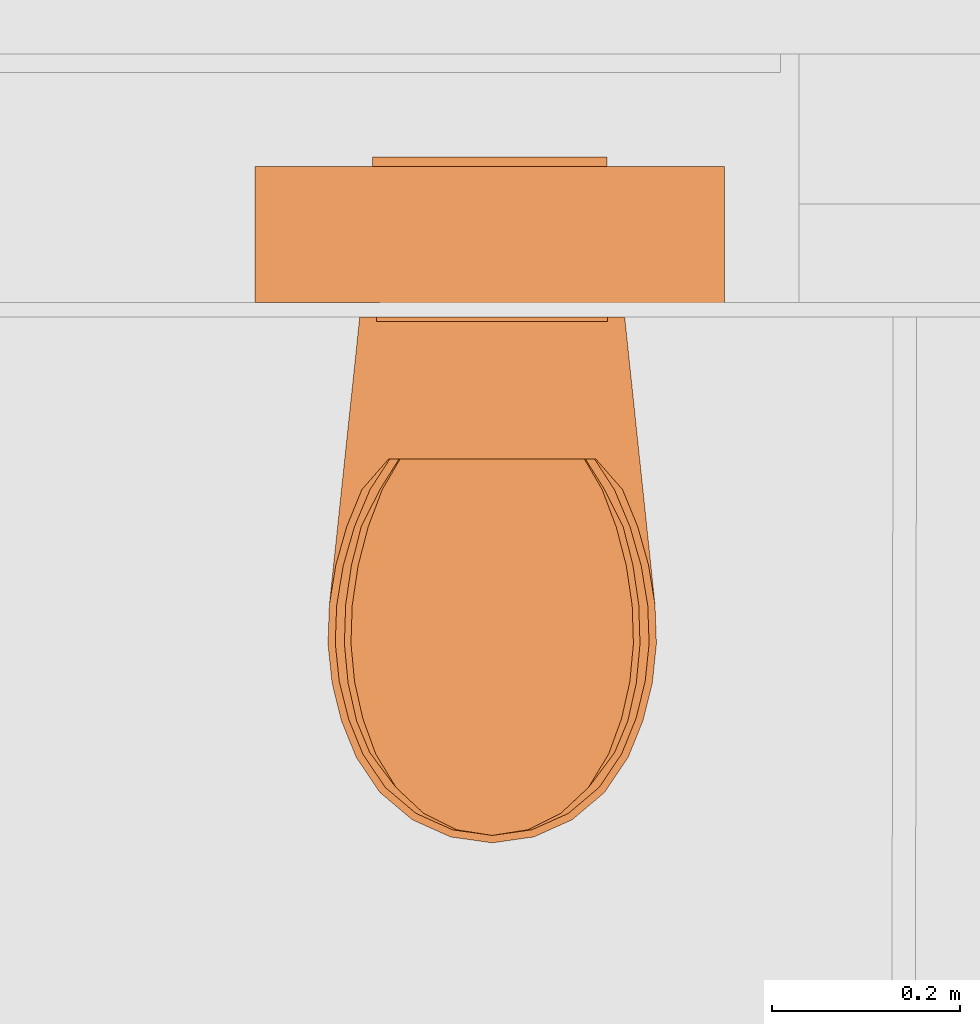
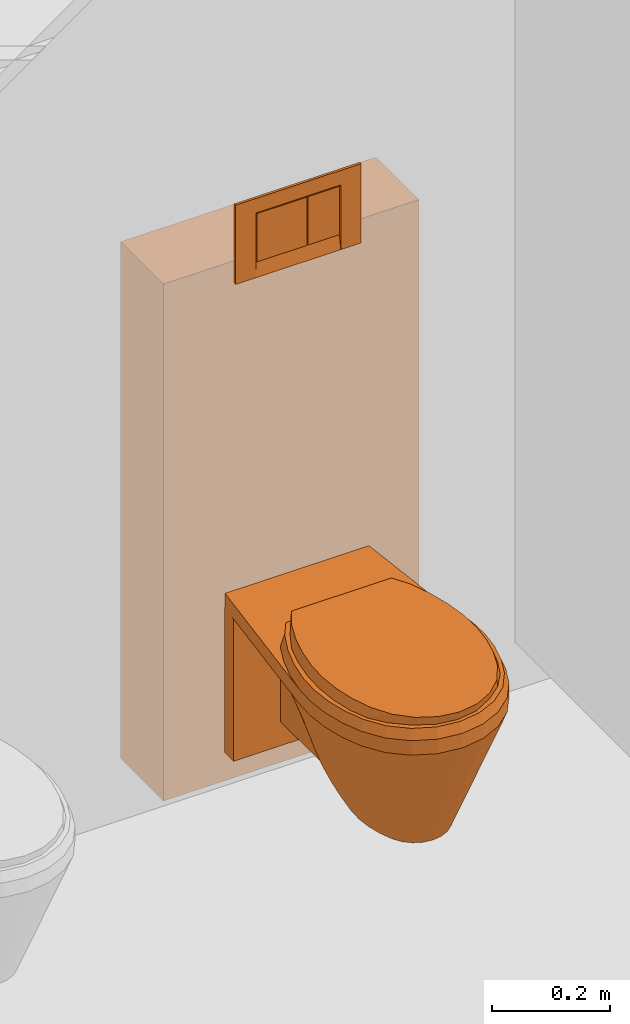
# One storey, part 114 of 167: 2 proxies.
"""IFC2X3 building model written with IfcOpenShell, lengths in millimetres."""

from ifc_helpers import new_model, entity, si_unit, converted_unit, derived_unit, money_unit, direction, frame, origin_with_axes, place, context, subcontext, project, spatial, open_shell, faceted_brep, surface_model, source, transform, mapped, type_object, type_shapes, element, save


model = new_model("IFC2X3")

# Units and contexts
model_context = context("Model", 3, precision=0.01, world=origin_with_axes(), true_north=direction((0.0, 1.0)))
plan_context = context("Plan", 3, precision=0.01, world=origin_with_axes(), true_north=direction((0.0, 1.0)))
body_context = subcontext(model_context, "Body", "Model", "MODEL_VIEW")
ifc_project = project(units=[si_unit("LENGTHUNIT", "METRE", prefix="MILLI"), si_unit("AREAUNIT", "SQUARE_METRE"), si_unit("VOLUMEUNIT", "CUBIC_METRE"), converted_unit("PLANEANGLEUNIT", "DEGREE", entity("IfcPlaneAngleMeasure", 0.0174532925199), si_unit("PLANEANGLEUNIT", "RADIAN"), dimensions=[0, 0, 0, 0, 0, 0, 0]), si_unit("SOLIDANGLEUNIT", "STERADIAN"), money_unit("EUR"), converted_unit("TIMEUNIT", "Year", entity("IfcTimeMeasure", 31556926.0), si_unit("TIMEUNIT", "SECOND"), dimensions=[0, 0, 1, 0, 0, 0, 0]), si_unit("MASSUNIT", "GRAM", prefix="KILO"), si_unit("THERMODYNAMICTEMPERATUREUNIT", "DEGREE_CELSIUS"), si_unit("LUMINOUSINTENSITYUNIT", "LUMEN"), si_unit("ENERGYUNIT", "JOULE", prefix="MEGA"), derived_unit("THERMALCONDUCTANCEUNIT", [(si_unit("POWERUNIT", "WATT"), 1), (si_unit("LENGTHUNIT", "METRE"), -1), (si_unit("THERMODYNAMICTEMPERATUREUNIT", "KELVIN"), -1)]), derived_unit("SPECIFICHEATCAPACITYUNIT", [(si_unit("ENERGYUNIT", "JOULE"), 1), (si_unit("MASSUNIT", "GRAM", prefix="KILO"), -1), (si_unit("THERMODYNAMICTEMPERATUREUNIT", "KELVIN"), -1)]), derived_unit("MASSDENSITYUNIT", [(si_unit("MASSUNIT", "GRAM", prefix="KILO"), 1), (si_unit("VOLUMEUNIT", "CUBIC_METRE"), -1)])], contexts=[model_context, plan_context])

# Site, building, storey
site_placement = place(None, origin_with_axes())
site = spatial("IfcSite", under=ifc_project, at=site_placement, Name="Site", CompositionType="ELEMENT")
building_placement = place(site_placement, origin_with_axes())
building = spatial("IfcBuilding", under=site, at=building_placement, Name="Naam gebouw", CompositionType="ELEMENT")
storey_placement = place(building_placement, origin_with_axes())
storey = spatial("IfcBuildingStorey", under=building, at=storey_placement, Name="Begane grond", CompositionType="ELEMENT", Elevation=0.0)

# Proxies
building_element_proxy_type_1 = type_object("IfcBuildingElementProxyType", Name="Toilet 24", PredefinedType="NOTDEFINED")
shared_shape_1 = source(origin_with_axes(), body_context, "Body", "SurfaceModel", [
    faceted_brep([(141.028331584, -29.3186537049, 70.0), (-141.028331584, -29.3186537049, 70.0), (-141.028331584, 0.494905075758, 70.0), (141.028331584, 0.494905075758, 70.0), (141.028331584, -29.3186537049, 370.0), (-141.028331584, -29.3186537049, 370.0), (-141.028331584, 0.494905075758, 370.0), (141.028331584, 0.494905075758, 370.0)], [[[0, 1, 2, 3]], [[1, 0, 4, 5]], [[2, 1, 5, 6]], [[3, 2, 6, 7]], [[0, 3, 7, 4]], [[5, 4, 7, 6]]]),
    faceted_brep([(0.0, -70.8916738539, 370.0), (29.2232249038, -74.3401088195, 370.0), (48.9681706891, -81.5929972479, 370.0), (48.9681706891, -29.3186537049, 370.0), (-48.9681706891, -29.3186537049, 370.0), (-48.9681706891, -81.5929972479, 370.0), (-29.2232249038, -74.3401088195, 370.0), (13.7012941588, -104.950683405, 120.0), (48.9681706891, -91.4215326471, 305.928931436), (25.9903462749, -111.50270984, 120.0), (48.9681706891, -132.92940311, 150.834999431), (48.9681706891, -162.865413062, 120.0), (48.9681706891, -29.3186537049, 120.0), (48.9681706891, -98.3265451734, 277.009109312), (48.9681706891, -115.60239829, 192.796015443), (48.9681706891, -128.161443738, 166.474594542), (-48.9681706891, -29.3186537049, 120.0), (-48.9681706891, -88.2509938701, 324.161469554), (-48.9681706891, -162.865413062, 120.0), (-48.9681706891, -136.95889879, 141.313409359), (-48.9681706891, -132.92940311, 150.834999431), (-48.9681706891, -121.830119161, 170.496419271), (-48.9681706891, -115.60239829, 192.796015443), (-48.9681706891, -107.087637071, 223.462569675), (-48.9681706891, -91.4215326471, 305.928931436), (-13.7012941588, -104.950683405, 120.0), (0.0, -102.688828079, 120.0), (35.5988807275, -121.669133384, 120.0), (41.5367611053, -134.401510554, 120.0), (-41.5367611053, -134.401510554, 120.0), (-25.9903462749, -111.50270984, 120.0), (-35.5988807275, -121.669133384, 120.0)], [[[0, 1, 2, 3, 4, 5, 6]], [[1, 0, 7]], [[8, 2, 1, 9]], [[10, 11, 12, 3, 2, 8, 13, 14, 15]], [[3, 12, 16, 4]], [[17, 5, 4, 16, 18, 19, 20, 21, 22, 23, 24]], [[6, 5, 17, 25]], [[0, 6, 26]], [[26, 7, 0]], [[7, 9, 1]], [[13, 8, 9, 27]], [[11, 10, 28]], [[29, 18, 16, 12, 11, 28, 27, 9, 7, 26, 25, 30, 31]], [[14, 13, 27]], [[15, 14, 27, 28]], [[10, 15, 28]], [[18, 29, 19]], [[20, 19, 29]], [[29, 31, 21, 20]], [[22, 21, 31]], [[31, 30, 23, 22]], [[24, 23, 30]], [[30, 25, 17, 24]], [[25, 26, 6]]]),
    surface_model("IfcShellBasedSurfaceModel", [(17.6912207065, -459.020482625, 120.0), (34.0279818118, -451.688334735, 120.0), (85.1820916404, -535.368037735, 370.0), (0.0, -461.527802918, 120.0), (-17.6912207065, -459.020482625, 120.0), (-34.0279818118, -451.688334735, 120.0), (-47.758656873, -440.093841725, 120.0), (-57.8323889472, -425.125447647, 120.0), (-68.2302903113, -399.418209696, 120.0), (-74.9438265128, -372.478677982, 120.0), (-77.8388247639, -344.846477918, 120.0), (-76.8575026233, -317.0761417, 120.0), (-70.9734872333, -270.86512559, 120.0), (-63.1150752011, -224.958207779, 120.0), (-53.2959776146, -179.441847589, 120.0), (-41.5367611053, -134.401510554, 120.0), (-35.5988807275, -121.669133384, 120.0), (-25.9903462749, -111.50270984, 120.0), (-13.7012941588, -104.950683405, 120.0), (0.0, -102.688828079, 120.0), (13.7012941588, -104.950683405, 120.0), (25.9903462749, -111.50270984, 120.0), (35.5988807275, -121.669133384, 120.0), (41.5367611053, -134.401510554, 120.0), (53.2959776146, -179.441847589, 120.0), (63.1150752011, -224.958207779, 120.0), (70.9734872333, -270.86512559, 120.0), (76.8575026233, -317.0761417, 120.0), (77.8388247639, -344.845484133, 120.0), (74.9438265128, -372.478677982, 120.0), (68.2302903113, -399.418209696, 120.0), (57.8323889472, -425.125447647, 120.0), (47.758656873, -440.093841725, 120.0), (119.554809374, -506.343544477, 370.0), (44.2868135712, -553.722258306, 370.0), (0.0, -560.0, 370.0), (-44.2868135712, -553.722258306, 370.0), (-85.1820916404, -535.368037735, 370.0), (-119.554809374, -506.343544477, 370.0), (-144.773417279, -468.871876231, 370.0), (-160.389366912, -430.260336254, 370.0), (-170.473871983, -389.797374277, 370.0), (-174.82224554, -348.294912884, 370.0), (-173.347324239, -306.584750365, 370.0), (-164.811192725, -257.295981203, 370.0), (-149.839664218, -209.61416286, 370.0), (-128.705001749, -164.398919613, 370.0), (-101.788177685, -122.466149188, 370.0), (-81.512416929, -100.834424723, 370.0), (-56.8863238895, -84.5015634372, 370.0), (-29.2232249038, -74.3401088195, 370.0), (0.0, -70.8916738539, 370.0), (29.2232249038, -74.3401088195, 370.0), (56.8863238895, -84.5015634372, 370.0), (81.512416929, -100.834424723, 370.0), (101.788177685, -122.466149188, 370.0), (128.705001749, -164.398919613, 370.0), (149.839664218, -209.61416286, 370.0), (164.811192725, -257.296974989, 370.0), (173.347324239, -306.584750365, 370.0), (174.82224554, -348.294912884, 370.0), (170.473871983, -389.797374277, 370.0), (160.390346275, -430.260336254, 370.0), (144.773417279, -468.871876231, 370.0)], [open_shell([[[0, 1, 2]], [[0, 3, 4, 5, 6, 7, 8, 9, 10, 11, 12, 13, 14, 15, 16, 17, 18, 19, 20, 21, 22, 23, 24, 25, 26, 27, 28, 29, 30, 31, 32, 1]], [[1, 33, 2]], [[0, 2, 34]], [[3, 0, 34]], [[4, 3, 35]], [[5, 4, 36]], [[6, 5, 37]], [[7, 6, 38]], [[8, 7, 39]], [[9, 8, 40]], [[10, 9, 41]], [[11, 10, 42]], [[12, 11, 43]], [[13, 12, 44]], [[14, 13, 45]], [[15, 14, 46]], [[16, 15, 47]], [[17, 16, 48]], [[18, 17, 49]], [[19, 18, 50]], [[20, 19, 51]], [[21, 20, 52]], [[22, 21, 53]], [[23, 22, 54]], [[24, 23, 55]], [[25, 24, 56]], [[26, 25, 57]], [[27, 26, 58]], [[28, 27, 59]], [[29, 28, 60]], [[30, 29, 61]], [[31, 30, 62]], [[32, 31, 63]], [[1, 32, 33]], [[3, 34, 35]], [[4, 35, 36]], [[5, 36, 37]], [[6, 37, 38]], [[7, 38, 39]], [[8, 39, 40]], [[9, 40, 41]], [[10, 41, 42]], [[11, 42, 43]], [[12, 43, 44]], [[13, 44, 45]], [[14, 45, 46]], [[15, 46, 47]], [[16, 47, 48]], [[17, 48, 49]], [[18, 49, 50]], [[19, 50, 51]], [[20, 51, 52]], [[21, 52, 53]], [[22, 53, 54]], [[23, 54, 55]], [[24, 55, 56]], [[25, 56, 57]], [[26, 57, 58]], [[27, 58, 59]], [[28, 59, 60]], [[29, 60, 61]], [[30, 61, 62]], [[31, 62, 63]], [[32, 63, 33]]])]),
    faceted_brep([(-173.347324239, -306.584750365, 370.0), (-174.82224554, -348.294912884, 370.0), (-174.82224554, -348.294912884, 400.0), (-173.347324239, -306.584750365, 400.0), (-140.973487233, 0.0, 370.0), (140.97544596, 0.0, 370.0), (173.347324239, -306.584750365, 370.0), (174.82224554, -348.294912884, 370.0), (170.473871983, -389.797374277, 370.0), (160.390346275, -430.260336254, 370.0), (144.773417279, -468.871876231, 370.0), (119.554809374, -506.343544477, 370.0), (85.1820916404, -535.368037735, 370.0), (44.2868135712, -553.722258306, 370.0), (0.0, -560.0, 370.0), (-44.2868135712, -553.722258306, 370.0), (-85.1820916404, -535.368037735, 370.0), (-119.554809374, -506.343544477, 370.0), (-144.773417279, -468.871876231, 370.0), (-160.389366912, -430.260336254, 370.0), (-170.473871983, -389.797374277, 370.0), (144.502133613, -309.721136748, 370.0), (129.388597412, -258.283803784, 370.0), (97.1352221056, -215.741842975, 370.0), (52.0130115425, -187.731010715, 370.0), (0.0, -177.963095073, 370.0), (-52.0130115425, -187.731010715, 370.0), (-97.1352221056, -215.741842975, 370.0), (-129.388597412, -258.283803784, 370.0), (-144.502133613, -309.721136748, 370.0), (-145.829171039, -347.26336375, 370.0), (-141.914655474, -384.619752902, 370.0), (-132.838894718, -421.039996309, 370.0), (-118.78209164, -455.793661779, 370.0), (-98.0920601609, -486.538397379, 370.0), (-69.8903112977, -510.352474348, 370.0), (-36.3363413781, -525.411302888, 370.0), (0.0, -530.56209206, 370.0), (36.3363413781, -525.411302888, 370.0), (69.8903112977, -510.352474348, 370.0), (98.0920601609, -486.538397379, 370.0), (118.78209164, -455.793661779, 370.0), (132.838894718, -421.039996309, 370.0), (141.914655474, -384.619752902, 370.0), (145.829171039, -347.26336375, 370.0), (-170.473871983, -389.797374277, 400.0), (-160.389366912, -430.260336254, 400.0), (-144.773417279, -468.871876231, 400.0), (-119.554809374, -506.343544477, 400.0), (-85.1820916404, -535.368037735, 400.0), (-44.2868135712, -553.722258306, 400.0), (0.0, -560.0, 400.0), (44.2868135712, -553.722258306, 400.0), (85.1820916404, -535.368037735, 400.0), (119.554809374, -506.343544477, 400.0), (144.773417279, -468.871876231, 400.0), (160.390346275, -430.260336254, 400.0), (170.473871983, -389.797374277, 400.0), (174.82224554, -348.294912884, 400.0), (173.347324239, -306.584750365, 400.0), (140.97544596, 0.0, 400.0), (-140.973487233, 0.0, 400.0), (144.502133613, -309.721136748, 400.0), (145.829171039, -347.26336375, 400.0), (141.914655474, -384.619752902, 400.0), (132.838894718, -421.039996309, 400.0), (118.78209164, -455.793661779, 400.0), (98.0920601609, -486.538397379, 400.0), (69.8903112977, -510.352474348, 400.0), (36.3363413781, -525.411302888, 400.0), (0.0, -530.56209206, 400.0), (-36.3363413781, -525.411302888, 400.0), (-69.8903112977, -510.352474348, 400.0), (-98.0920601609, -486.538397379, 400.0), (-118.78209164, -455.793661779, 400.0), (-132.838894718, -421.039996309, 400.0), (-141.914655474, -384.619752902, 400.0), (-145.829171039, -347.26336375, 400.0), (-144.502133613, -309.721136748, 400.0), (-129.388597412, -258.283803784, 400.0), (-97.1352221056, -215.741842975, 400.0), (-52.0130115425, -187.731010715, 400.0), (0.0, -177.963095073, 400.0), (52.0130115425, -187.731010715, 400.0), (97.1352221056, -215.741842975, 400.0), (129.388597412, -258.283803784, 400.0)], [[[0, 1, 2, 3]], [[0, 4, 5, 6, 7, 8, 9, 10, 11, 12, 13, 14, 15, 16, 17, 18, 19, 20, 1], [21, 22, 23, 24, 25, 26, 27, 28, 29, 30, 31, 32, 33, 34, 35, 36, 37, 38, 39, 40, 41, 42, 43, 44]], [[1, 20, 45, 2]], [[3, 2, 45, 46, 47, 48, 49, 50, 51, 52, 53, 54, 55, 56, 57, 58, 59, 60, 61], [62, 63, 64, 65, 66, 67, 68, 69, 70, 71, 72, 73, 74, 75, 76, 77, 78, 79, 80, 81, 82, 83, 84, 85]], [[4, 0, 3, 61]], [[5, 4, 61, 60]], [[6, 5, 60, 59]], [[7, 6, 59, 58]], [[8, 7, 58, 57]], [[9, 8, 57, 56]], [[10, 9, 56, 55]], [[11, 10, 55, 54]], [[12, 11, 54, 53]], [[13, 12, 53, 52]], [[14, 13, 52, 51]], [[15, 14, 51, 50]], [[16, 15, 50, 49]], [[17, 16, 49, 48]], [[18, 17, 48, 47]], [[19, 18, 47, 46]], [[20, 19, 46, 45]], [[22, 21, 62, 85]], [[23, 22, 85, 84]], [[24, 23, 84, 83]], [[25, 24, 83, 82]], [[26, 25, 82, 81]], [[27, 26, 81, 80]], [[28, 27, 80, 79]], [[29, 28, 79, 78]], [[30, 29, 78, 77]], [[31, 30, 77, 76]], [[32, 31, 76, 75]], [[33, 32, 75, 74]], [[34, 33, 74, 73]], [[35, 34, 73, 72]], [[36, 35, 72, 71]], [[37, 36, 71, 70]], [[38, 37, 70, 69]], [[39, 38, 69, 68]], [[40, 39, 68, 67]], [[41, 40, 67, 66]], [[42, 41, 66, 65]], [[43, 42, 65, 64]], [[44, 43, 64, 63]], [[21, 44, 63, 62]]]),
    surface_model("IfcShellBasedSurfaceModel", [(16.8066596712, -465.732925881, 220.0), (32.3265827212, -460.013850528, 220.0), (80.9229870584, -525.284018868, 370.0), (0.0, -467.68863571, 220.0), (-16.8066596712, -465.732925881, 220.0), (-32.3265827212, -460.013850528, 220.0), (-45.3707240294, -450.97014598, 220.0), (-54.9407694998, -439.294798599, 220.0), (-64.8187757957, -419.243152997, 220.0), (-71.1966351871, -398.23031826, 220.0), (-73.9468835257, -376.67720221, 220.0), (-73.0146274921, -355.01633996, 220.0), (-67.4248128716, -318.971747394, 220.0), (-59.9593214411, -283.164351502, 220.0), (-50.6311787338, -247.661590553, 220.0), (-39.45992305, -212.530127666, 220.0), (-33.8189366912, -202.598873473, 220.0), (-24.6908289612, -194.669063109, 220.0), (-13.0162294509, -189.55848249, 220.0), (0.0, -187.794235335, 220.0), (13.0162294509, -189.55848249, 220.0), (24.6908289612, -194.669063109, 220.0), (33.8189366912, -202.598873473, 220.0), (39.45992305, -212.530127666, 220.0), (50.6311787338, -247.661590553, 220.0), (59.9593214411, -283.164351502, 220.0), (67.4248128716, -318.971747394, 220.0), (73.0146274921, -355.01633996, 220.0), (73.9468835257, -376.676427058, 220.0), (71.1966351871, -398.23031826, 220.0), (64.8187757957, -419.243152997, 220.0), (54.9407694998, -439.294798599, 220.0), (45.3707240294, -450.97014598, 220.0), (113.577068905, -502.644914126, 370.0), (42.0724728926, -539.600310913, 370.0), (0.0, -544.496949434, 370.0), (-42.0724728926, -539.600310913, 370.0), (-80.9229870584, -525.284018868, 370.0), (-113.577068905, -502.644914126, 370.0), (-137.534746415, -473.417012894, 370.0), (-152.369898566, -443.300011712, 370.0), (-161.950178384, -411.73890137, 370.0), (-166.081133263, -379.366981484, 370.0), (-164.679958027, -346.833054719, 370.0), (-156.570633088, -308.387814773, 370.0), (-142.347681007, -271.195996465, 370.0), (-122.269751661, -235.928106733, 370.0), (-96.6987688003, -203.220545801, 370.0), (-77.4367960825, -186.347800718, 370.0), (-54.042007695, -173.608168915, 370.0), (-27.7620636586, -165.682234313, 370.0), (0.0, -162.99245504, 370.0), (27.7620636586, -165.682234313, 370.0), (54.042007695, -173.608168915, 370.0), (77.4367960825, -186.347800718, 370.0), (96.6987688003, -203.220545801, 370.0), (122.269751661, -235.928106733, 370.0), (142.347681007, -271.195996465, 370.0), (156.570633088, -308.388589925, 370.0), (164.679958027, -346.833054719, 370.0), (166.081133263, -379.366981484, 370.0), (161.950178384, -411.73890137, 370.0), (152.370828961, -443.300011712, 370.0), (137.534746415, -473.417012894, 370.0)], [open_shell([[[0, 1, 2]], [[0, 3, 4, 5, 6, 7, 8, 9, 10, 11, 12, 13, 14, 15, 16, 17, 18, 19, 20, 21, 22, 23, 24, 25, 26, 27, 28, 29, 30, 31, 32, 1]], [[1, 33, 2]], [[0, 2, 34]], [[3, 0, 34]], [[4, 3, 35]], [[5, 4, 36]], [[6, 5, 37]], [[7, 6, 38]], [[8, 7, 39]], [[9, 8, 40]], [[10, 9, 41]], [[11, 10, 42]], [[12, 11, 43]], [[13, 12, 44]], [[14, 13, 45]], [[15, 14, 46]], [[16, 15, 47]], [[17, 16, 48]], [[18, 17, 49]], [[19, 18, 50]], [[20, 19, 51]], [[21, 20, 52]], [[22, 21, 53]], [[23, 22, 54]], [[24, 23, 55]], [[25, 24, 56]], [[26, 25, 57]], [[27, 26, 58]], [[28, 27, 59]], [[29, 28, 60]], [[30, 29, 61]], [[31, 30, 62]], [[32, 31, 63]], [[1, 32, 33]], [[3, 34, 35]], [[4, 35, 36]], [[5, 36, 37]], [[6, 37, 38]], [[7, 38, 39]], [[8, 39, 40]], [[9, 40, 41]], [[10, 41, 42]], [[11, 42, 43]], [[12, 43, 44]], [[13, 44, 45]], [[14, 45, 46]], [[15, 46, 47]], [[16, 47, 48]], [[17, 48, 49]], [[18, 49, 50]], [[19, 50, 51]], [[20, 51, 52]], [[21, 52, 53]], [[22, 53, 54]], [[23, 54, 55]], [[24, 55, 56]], [[25, 56, 57]], [[26, 57, 58]], [[27, 58, 59]], [[28, 59, 60]], [[29, 60, 61]], [[30, 61, 62]], [[31, 62, 63]], [[32, 63, 33]]])]),
    faceted_brep([(0.0, -560.0, 400.0), (-44.2868135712, -553.722258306, 400.0), (-85.1820916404, -535.368037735, 400.0), (-119.554809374, -506.343544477, 400.0), (-144.773417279, -468.871876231, 400.0), (-160.389366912, -430.260336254, 400.0), (-170.473871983, -389.797374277, 400.0), (-174.82224554, -348.294912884, 400.0), (-173.347324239, -306.584750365, 400.0), (-166.466316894, -264.426390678, 400.0), (-154.871633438, -223.344300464, 400.0), (-138.715075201, -183.881086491, 400.0), (-110.192657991, -151.316352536, 400.0), (110.192657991, -151.316352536, 400.0), (138.715075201, -183.881086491, 400.0), (154.871633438, -223.344300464, 400.0), (166.466316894, -264.426390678, 400.0), (173.347324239, -306.584750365, 400.0), (174.82224554, -348.294912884, 400.0), (170.473871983, -389.797374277, 400.0), (160.390346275, -430.260336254, 400.0), (144.773417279, -468.871876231, 400.0), (119.554809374, -506.343544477, 400.0), (85.1820916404, -535.368037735, 400.0), (44.2868135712, -553.722258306, 400.0), (87.0768965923, -411.996361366, 400.0), (94.5108554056, -382.276303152, 400.0), (97.7160649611, -351.79832554, 400.0), (96.6142529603, -320.742930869, 400.0), (90.9929409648, -286.794273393, 400.0), (81.3288631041, -253.338107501, 400.0), (68.7544855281, -223.466323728, 400.0), (-68.7541287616, -223.466323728, 400.0), (-81.3289539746, -253.338422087, 400.0), (-90.9929409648, -286.794273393, 400.0), (-96.6142529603, -320.742930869, 400.0), (-97.7160649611, -351.79832554, 400.0), (-94.5108554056, -382.276303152, 400.0), (-87.0768965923, -411.996361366, 400.0), (-76.4888004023, -438.077570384, 400.0), (-62.0685687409, -459.426212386, 400.0), (-44.2610983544, -474.406756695, 400.0), (-23.0257994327, -483.902301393, 400.0), (0.0, -487.154466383, 400.0), (23.0257994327, -483.902301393, 400.0), (44.2610983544, -474.406756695, 400.0), (62.0685687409, -459.426212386, 400.0), (76.4888004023, -438.077570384, 400.0), (0.0, -552.094437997, 420.0), (-42.1518013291, -546.118807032, 420.0), (-81.0756208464, -528.649055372, 420.0), (-113.791255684, -501.024805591, 420.0), (-137.792514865, -465.359839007, 420.0), (-152.99027632, -427.78481709, 420.0), (-162.803497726, -388.407068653, 420.0), (-167.035327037, -348.017646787, 420.0), (-165.600559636, -307.427480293, 420.0), (-158.59027632, -264.933221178, 420.0), (-146.688072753, -223.575852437, 420.0), (-130.061420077, -183.931769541, 420.0), (-108.940468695, -151.316352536, 420.0), (108.940468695, -151.316352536, 420.0), (130.061420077, -183.930775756, 420.0), (146.688072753, -223.575852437, 420.0), (158.59027632, -264.933221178, 420.0), (165.600559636, -307.427480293, 420.0), (167.035327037, -348.017646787, 420.0), (162.803497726, -388.407068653, 420.0), (152.99027632, -427.78481709, 420.0), (137.792514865, -465.359839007, 420.0), (113.791255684, -501.024805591, 420.0), (81.0756208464, -528.649055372, 420.0), (42.1518013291, -546.118807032, 420.0), (87.0768965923, -411.996361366, 420.0), (94.5108554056, -382.276303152, 420.0), (97.7160649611, -351.79832554, 420.0), (96.6142529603, -320.742930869, 420.0), (90.9929409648, -286.794273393, 420.0), (81.3288631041, -253.338107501, 420.0), (68.7544855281, -223.466323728, 420.0), (-68.7541287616, -223.466323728, 420.0), (-81.3289539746, -253.338422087, 420.0), (-90.9929409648, -286.794273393, 420.0), (-96.6142529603, -320.742930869, 420.0), (-97.7160649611, -351.79832554, 420.0), (-94.5108554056, -382.276303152, 420.0), (-87.0768965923, -411.996361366, 420.0), (-76.4888004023, -438.077570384, 420.0), (-62.0685687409, -459.426212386, 420.0), (-44.2610983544, -474.406756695, 420.0), (-23.0257994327, -483.902301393, 420.0), (0.0, -487.154466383, 420.0), (23.0257994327, -483.902301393, 420.0), (44.2610983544, -474.406756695, 420.0), (62.0685687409, -459.426212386, 420.0), (76.4888004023, -438.077570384, 420.0)], [[[0, 1, 2, 3, 4, 5, 6, 7, 8, 9, 10, 11, 12, 13, 14, 15, 16, 17, 18, 19, 20, 21, 22, 23, 24], [25, 26, 27, 28, 29, 30, 31, 32, 33, 34, 35, 36, 37, 38, 39, 40, 41, 42, 43, 44, 45, 46, 47]], [[1, 0, 48]], [[2, 1, 49]], [[3, 2, 50]], [[4, 3, 51]], [[5, 4, 52]], [[6, 5, 53]], [[6, 54, 55, 7]], [[8, 7, 55]], [[9, 8, 56]], [[10, 9, 57]], [[11, 10, 58]], [[12, 11, 59]], [[12, 60, 61, 13]], [[14, 13, 61]], [[15, 14, 62]], [[16, 15, 63]], [[17, 16, 64]], [[18, 17, 65]], [[18, 66, 67, 19]], [[20, 19, 67]], [[20, 68, 69, 21]], [[22, 21, 69]], [[23, 22, 70]], [[24, 23, 71]], [[0, 24, 72]], [[73, 74, 26, 25]], [[74, 75, 27, 26]], [[75, 76, 28, 27]], [[76, 77, 29, 28]], [[77, 78, 30, 29]], [[78, 79, 31, 30]], [[79, 80, 32, 31]], [[80, 81, 33, 32]], [[81, 82, 34, 33]], [[82, 83, 35, 34]], [[83, 84, 36, 35]], [[84, 85, 37, 36]], [[85, 86, 38, 37]], [[86, 87, 39, 38]], [[87, 88, 40, 39]], [[88, 89, 41, 40]], [[89, 90, 42, 41]], [[90, 91, 43, 42]], [[91, 92, 44, 43]], [[92, 93, 45, 44]], [[93, 94, 46, 45]], [[94, 95, 47, 46]], [[95, 73, 25, 47]], [[0, 72, 48]], [[1, 48, 49]], [[2, 49, 50]], [[3, 50, 51]], [[4, 51, 52]], [[5, 52, 53]], [[6, 53, 54]], [[54, 53, 52, 51, 50, 49, 48, 72, 71, 70, 69, 68, 67, 66, 65, 64, 63, 62, 61, 60, 59, 58, 57, 56, 55], [77, 76, 75, 74, 73, 95, 94, 93, 92, 91, 90, 89, 88, 87, 86, 85, 84, 83, 82, 81, 80, 79, 78]], [[8, 55, 56]], [[9, 56, 57]], [[10, 57, 58]], [[11, 58, 59]], [[12, 59, 60]], [[14, 61, 62]], [[15, 62, 63]], [[16, 63, 64]], [[17, 64, 65]], [[18, 65, 66]], [[20, 67, 68]], [[22, 69, 70]], [[23, 70, 71]], [[24, 71, 72]]]),
    faceted_brep([(-107.599328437, -494.418120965, 420.0), (-76.6638824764, -519.467473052, 420.0), (-72.9680587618, -528.649055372, 440.0), (-130.296075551, -463.902949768, 420.0), (-144.35043022, -430.260336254, 420.0), (-153.426484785, -389.797374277, 420.0), (-157.340020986, -348.294912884, 420.0), (-156.012591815, -306.584750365, 420.0), (-149.819685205, -264.426390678, 420.0), (-139.384470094, -223.344300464, 420.0), (-119.555005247, -183.881086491, 420.0), (-99.1733921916, -151.316352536, 420.0), (99.1733921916, -151.316352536, 420.0), (119.555005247, -183.881086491, 420.0), (139.384470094, -223.344300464, 420.0), (149.819685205, -264.426390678, 420.0), (156.012591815, -306.584750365, 420.0), (157.340020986, -348.294912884, 420.0), (153.426484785, -389.797374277, 420.0), (144.351311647, -430.260336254, 420.0), (130.296075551, -463.902949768, 420.0), (107.599328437, -494.418120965, 420.0), (76.6638824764, -519.467473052, 420.0), (39.8581322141, -538.815478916, 420.0), (0.0, -545.09322061, 420.0), (-39.8581322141, -538.815478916, 420.0), (-37.9366211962, -546.118807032, 440.0), (-102.412130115, -501.024805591, 440.0), (-124.013263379, -465.359839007, 440.0), (-137.691248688, -427.78481709, 440.0), (-146.523147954, -388.407068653, 440.0), (-150.331794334, -348.017646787, 440.0), (-149.040503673, -307.427480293, 440.0), (-142.731248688, -264.933221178, 440.0), (-132.019265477, -223.575852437, 440.0), (-117.055278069, -183.931769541, 440.0), (-98.0464218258, -151.316352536, 440.0), (98.0464218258, -151.316352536, 440.0), (117.055278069, -183.930775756, 440.0), (132.019265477, -223.575852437, 440.0), (142.731248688, -264.933221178, 440.0), (149.040503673, -307.427480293, 440.0), (150.331794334, -348.017646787, 440.0), (146.523147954, -388.407068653, 440.0), (137.691248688, -427.78481709, 440.0), (124.013263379, -465.359839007, 440.0), (102.412130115, -501.024805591, 440.0), (72.9680587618, -528.649055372, 440.0), (37.9366211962, -546.118807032, 440.0), (0.0, -552.094437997, 440.0)], [[[0, 1, 2]], [[0, 3, 4, 5, 6, 7, 8, 9, 10, 11, 12, 13, 14, 15, 16, 17, 18, 19, 20, 21, 22, 23, 24, 25, 1]], [[1, 26, 2]], [[0, 2, 27]], [[3, 0, 27]], [[4, 3, 28]], [[5, 4, 29]], [[6, 5, 30, 31]], [[7, 6, 31]], [[8, 7, 32]], [[9, 8, 33]], [[10, 9, 34]], [[11, 10, 35]], [[12, 11, 36, 37]], [[13, 12, 37]], [[14, 13, 38]], [[15, 14, 39]], [[16, 15, 40]], [[17, 16, 41]], [[18, 17, 42, 43]], [[19, 18, 43]], [[20, 19, 44]], [[21, 20, 45]], [[22, 21, 46]], [[23, 22, 47]], [[24, 23, 48]], [[25, 24, 49]], [[1, 25, 26]], [[27, 2, 26, 49, 48, 47, 46, 45, 44, 43, 42, 41, 40, 39, 38, 37, 36, 35, 34, 33, 32, 31, 30, 29, 28]], [[3, 27, 28]], [[4, 28, 29]], [[5, 29, 30]], [[7, 31, 32]], [[8, 32, 33]], [[9, 33, 34]], [[10, 34, 35]], [[11, 35, 36]], [[13, 37, 38]], [[14, 38, 39]], [[15, 39, 40]], [[16, 40, 41]], [[17, 41, 42]], [[19, 43, 44]], [[20, 44, 45]], [[21, 45, 46]], [[22, 46, 47]], [[23, 47, 48]], [[24, 48, 49]], [[25, 49, 26]]]),
    faceted_brep([(-83.0, 0.0, 1036.0), (-83.0, 0.0, 1170.0), (-83.0, -5.0, 1170.0), (-83.0, -5.0, 1036.0), (-123.0, 0.0, 1036.0), (-123.0, 0.0, 1200.0), (123.0, 0.0, 1200.0), (123.0, 0.0, 1036.0), (83.0, 0.0, 1036.0), (83.0, 0.0, 1170.0), (83.0, -5.0, 1170.0), (83.0, -5.0, 1036.0), (123.0, -5.0, 1036.0), (123.0, -5.0, 1200.0), (-123.0, -5.0, 1200.0), (-123.0, -5.0, 1036.0)], [[[0, 1, 2, 3]], [[0, 4, 5, 6, 7, 8, 9, 1]], [[1, 9, 10, 2]], [[3, 2, 10, 11, 12, 13, 14, 15]], [[4, 0, 3, 15]], [[5, 4, 15, 14]], [[6, 5, 14, 13]], [[7, 6, 13, 12]], [[8, 7, 12, 11]], [[9, 8, 11, 10]]]),
    faceted_brep([(83.0, 0.0, 1066.0), (-83.0, 0.0, 1066.0), (-83.0, -5.0, 1036.0), (83.0, -5.0, 1036.0), (83.0, 0.0, 1036.0), (-83.0, 0.0, 1036.0)], [[[0, 1, 2, 3]], [[1, 0, 4, 5]], [[1, 5, 2]], [[3, 2, 5, 4]], [[4, 0, 3]]]),
    faceted_brep([(-81.0, 0.0, 1068.0), (17.0, 0.0, 1068.0), (17.0, -5.0, 1068.0), (-81.0, -5.0, 1068.0), (-81.0, 0.0, 1168.0), (17.0, 0.0, 1168.0), (17.0, -5.0, 1168.0), (-81.0, -5.0, 1168.0)], [[[0, 1, 2, 3]], [[0, 4, 5, 1]], [[1, 5, 6, 2]], [[3, 2, 6, 7]], [[4, 0, 3, 7]], [[5, 4, 7, 6]]]),
    faceted_brep([(19.0, 0.0, 1168.0), (19.0, 0.0, 1068.0), (19.0, -5.0, 1068.0), (19.0, -5.0, 1168.0), (81.0, 0.0, 1168.0), (81.0, 0.0, 1068.0), (81.0, -5.0, 1068.0), (81.0, -5.0, 1168.0)], [[[0, 1, 2, 3]], [[0, 4, 5, 1]], [[1, 5, 6, 2]], [[3, 2, 6, 7]], [[4, 0, 3, 7]], [[5, 4, 7, 6]]]),
])
type_shapes(building_element_proxy_type_1, [shared_shape_1])
proxy_1_placement = place(storey_placement, frame((33023.1764118, 49220.000063, 0.0), z_axis=(0.0, 0.0, 1.0), x_axis=(1.0, 0.0, 0.0)))
element("IfcBuildingElementProxy", 1, at=proxy_1_placement, inside=storey, type_object=building_element_proxy_type_1, Name="__FU - 003", context=body_context, shape_type="MappedRepresentation", body=[
    mapped(shared_shape_1, transform((0.0, 0.0, 0.0))),
])
building_element_proxy_type_2 = type_object("IfcBuildingElementProxyType", Name="Inbouwreservoir 24 KM", PredefinedType="NOTDEFINED")
shared_shape_2 = source(origin_with_axes(), body_context, "Body", "SurfaceModel", [
    faceted_brep([(0.0, 0.0, 0.0), (500.0, 0.0, 0.0), (500.0, 0.0, 1070.0), (0.0, 0.0, 1070.0), (0.0, 145.00000711, 0.0), (500.0, 145.00000711, 0.0), (500.0, 145.00000711, 1070.0), (0.0, 145.00000711, 1070.0)], [[[0, 1, 2, 3]], [[0, 4, 5, 1]], [[1, 5, 6, 2]], [[3, 2, 6, 7]], [[4, 0, 3, 7]], [[5, 4, 7, 6]]]),
    surface_model("IfcShellBasedSurfaceModel", [(1.0, 0.0, 0.0), (499.0, 0.0, 0.0), (499.0, 145.00000711, 1070.0), (1.0, 145.00000711, 1070.0)], [open_shell([[[0, 1, 2, 3]]])]),
    surface_model("IfcShellBasedSurfaceModel", [(1.0, 0.0, 1070.0), (499.0, 0.0, 1070.0), (499.0, 145.00000711, 0.0), (1.0, 145.00000711, 0.0)], [open_shell([[[0, 1, 2, 3]]])]),
    faceted_brep([(375.0, -10.0, 820.0), (125.0, -10.0, 820.0), (125.0, 0.0, 820.0), (375.0, 0.0, 820.0), (375.0, -10.0, 980.0), (125.0, -10.0, 980.0), (125.0, 0.0, 980.0), (375.0, 0.0, 980.0)], [[[0, 1, 2, 3]], [[1, 0, 4, 5]], [[2, 1, 5, 6]], [[3, 2, 6, 7]], [[0, 3, 7, 4]], [[5, 4, 7, 6]]]),
    surface_model("IfcShellBasedSurfaceModel", [(325.0, 0.0, 850.0), (175.0, 0.0, 850.0), (175.0, 0.0, 950.0), (325.0, 0.0, 950.0)], [open_shell([[[0, 1, 2, 3]]])]),
    surface_model("IfcShellBasedSurfaceModel", [(175.0, -10.0, 820.0), (325.0, -10.0, 820.0), (325.0, -10.0, 855.0), (175.0, -10.0, 855.0)], [open_shell([[[0, 1, 2, 3]]])]),
    surface_model("IfcShellBasedSurfaceModel", [(175.0, -10.0, 855.0), (265.0, -10.0, 855.0), (265.0, -10.0, 945.0), (175.0, -10.0, 945.0)], [open_shell([[[0, 1, 2, 3]]])]),
    surface_model("IfcShellBasedSurfaceModel", [(265.0, -10.0, 855.0), (325.0, -10.0, 855.0), (325.0, -10.0, 945.0), (265.0, -10.0, 945.0)], [open_shell([[[0, 1, 2, 3]]])]),
])
type_shapes(building_element_proxy_type_2, [shared_shape_2])
proxy_2_placement = place(storey_placement, frame((33270.5300795, 49379.8434168, 0.0), z_axis=(0.0, 0.0, 1.0), x_axis=(-0.999999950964, 0.000313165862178, 0.0)))
element("IfcBuildingElementProxy", 2, at=proxy_2_placement, inside=storey, type_object=building_element_proxy_type_2, Name="__Object-x", context=body_context, shape_type="MappedRepresentation", body=[
    mapped(shared_shape_2, transform((0.0, 0.0, 0.0))),
])

save(model, "model.ifc")
